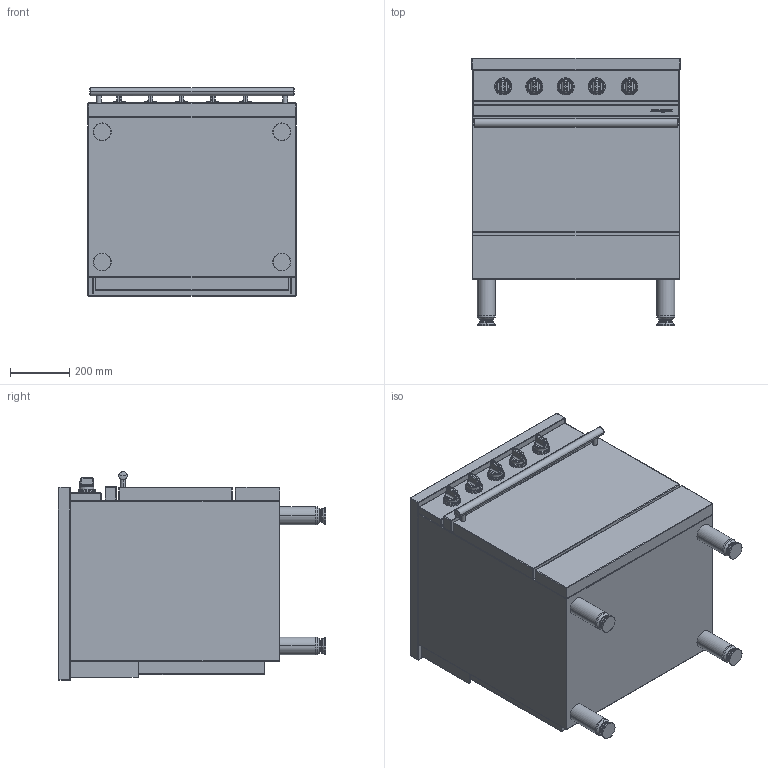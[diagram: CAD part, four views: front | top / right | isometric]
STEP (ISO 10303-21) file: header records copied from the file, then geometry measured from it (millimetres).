
FILE_DESCRIPTION((''),'2;1');
FILE_NAME('CE741VTR_EXPORT_STEP_ASM','2017-11-22T',('r.avril'),(''),'PRO/ENGINEER BY PARAMETRIC TECHNOLOGY CORPORATION, 2014200','PRO/ENGINEER BY PARAMETRIC TECHNOLOGY CORPORATION, 2014200','');
FILE_SCHEMA(('AP203_CONFIGURATION_CONTROLLED_3D_DESIGN_OF_MECHANICAL_PARTS_AND_ASSEMBLIES_MIM_LF { 1 0 10303 403 2 1 2 }'));
Length unit declared in the file: millimetre
Products named in the file (6): FOURNEAUX_AMB_700_EXPORT_STEP; TABLE_700_VITRO_INDUCT; 65052002; TABLE_700_VITRO_ASM; MANETTE_AMB_EXPORT_STEP; CE741VTR_EXPORT_STEP_ASM
Assembly tree (9 placements, depth 3):
  CE741VTR_EXPORT_STEP_ASM
    FOURNEAUX_AMB_700_EXPORT_STEP
    TABLE_700_VITRO_ASM
      TABLE_700_VITRO_INDUCT
      65052002
    MANETTE_AMB_EXPORT_STEP  x5
Bounding box: 700 x 900.2 x 703 mm (x, y, z)
Volume: 324461445.3 mm3; surface area: 5947836.2 mm2
Topology: 23 solids, 41 shells, 582 faces, 1885 edges, 1629 vertices
Faces by surface type: plane 186, cylinder 174, torus 64, bspline 60, sphere 52, cone 46
Entity records: 20863 total; most frequent: CARTESIAN_POINT 5527, DIRECTION 2421, ORIENTED_EDGE 2024, EDGE_CURVE 1237, VERTEX_POINT 909, AXIS2_PLACEMENT_3D 877, VECTOR 649, LINE 649
